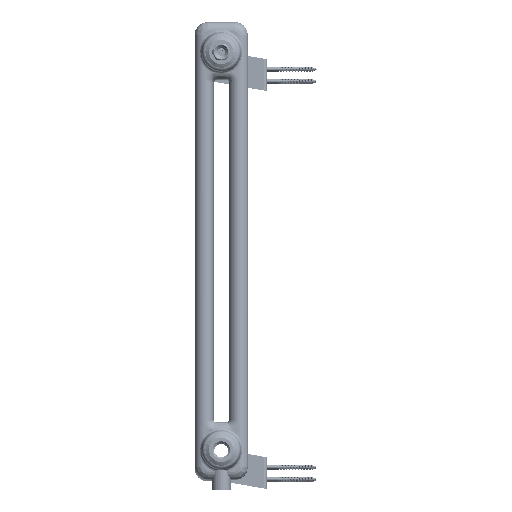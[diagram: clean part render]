
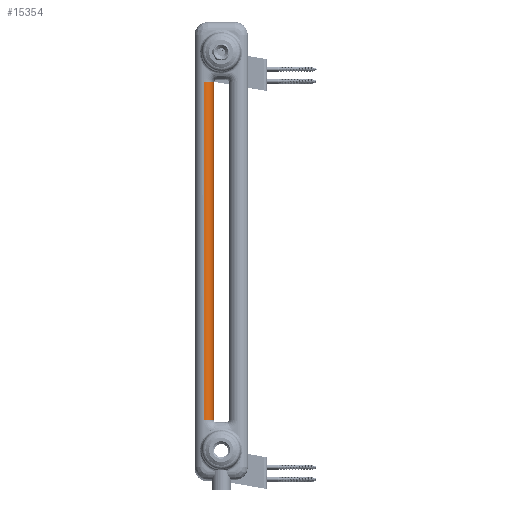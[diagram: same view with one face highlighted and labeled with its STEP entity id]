
A CAD part, top view. The second image highlights one B-rep face of the part: STEP entity #15354.
In plain terms, the highlighted cylindrical face has radius 12.5 mm (diameter 25 mm), a partial arc.
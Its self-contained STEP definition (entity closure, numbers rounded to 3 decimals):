
#7335=CIRCLE('',#102550,12.5);
#7341=CIRCLE('',#102557,12.5);
#7372=CIRCLE('',#102601,12.5);
#7373=CIRCLE('',#102602,12.5);
#15354=ADVANCED_FACE('',(#22884),#19764,.T.);
#19764=CYLINDRICAL_SURFACE('',#102603,12.5);
#22884=FACE_OUTER_BOUND('',#29271,.T.);
#29271=EDGE_LOOP('',(#51902,#51903,#51904,#51905,#51906,#51907));
#34760=LINE('',#237119,#38239);
#34761=LINE('',#237120,#38240);
#38239=VECTOR('',#118945,1.);
#38240=VECTOR('',#118946,1.);
#51902=ORIENTED_EDGE('',*,*,#85207,.F.);
#51903=ORIENTED_EDGE('',*,*,#85208,.F.);
#51904=ORIENTED_EDGE('',*,*,#85209,.F.);
#51905=ORIENTED_EDGE('',*,*,#85140,.T.);
#51906=ORIENTED_EDGE('',*,*,#85134,.T.);
#51907=ORIENTED_EDGE('',*,*,#85210,.F.);
#73908=VERTEX_POINT('',#235808);
#73909=VERTEX_POINT('',#235809);
#73912=VERTEX_POINT('',#235817);
#73957=VERTEX_POINT('',#237115);
#73958=VERTEX_POINT('',#237116);
#73959=VERTEX_POINT('',#237118);
#85134=EDGE_CURVE('',#73908,#73909,#7335,.T.);
#85140=EDGE_CURVE('',#73912,#73908,#7341,.T.);
#85207=EDGE_CURVE('',#73957,#73958,#7372,.T.);
#85208=EDGE_CURVE('',#73959,#73957,#7373,.T.);
#85209=EDGE_CURVE('',#73912,#73959,#34760,.T.);
#85210=EDGE_CURVE('',#73958,#73909,#34761,.T.);
#102550=AXIS2_PLACEMENT_3D('',#235807,#118822,#118823);
#102557=AXIS2_PLACEMENT_3D('',#235819,#118836,#118837);
#102601=AXIS2_PLACEMENT_3D('',#237114,#118941,#118942);
#102602=AXIS2_PLACEMENT_3D('',#237117,#118943,#118944);
#102603=AXIS2_PLACEMENT_3D('',#237121,#118947,#118948);
#118822=DIRECTION('',(0.,1.,0.));
#118823=DIRECTION('',(1.,0.,0.));
#118836=DIRECTION('',(0.,1.,0.));
#118837=DIRECTION('',(0.,0.,1.));
#118941=DIRECTION('',(0.,1.,0.));
#118942=DIRECTION('',(1.,0.,0.));
#118943=DIRECTION('',(0.,1.,0.));
#118944=DIRECTION('',(0.,0.,1.));
#118945=DIRECTION('',(0.,1.,0.));
#118946=DIRECTION('',(0.,-1.,0.));
#118947=DIRECTION('',(0.,-1.,0.));
#118948=DIRECTION('',(0.,0.,1.));
#235807=CARTESIAN_POINT('',(12.5,79.5,922.5));
#235808=CARTESIAN_POINT('',(25.,79.5,922.5));
#235809=CARTESIAN_POINT('',(12.5,79.5,910.));
#235817=CARTESIAN_POINT('',(12.5,79.5,935.));
#235819=CARTESIAN_POINT('',(12.5,79.5,922.5));
#237114=CARTESIAN_POINT('',(12.5,523.5,922.5));
#237115=CARTESIAN_POINT('',(25.,523.5,922.5));
#237116=CARTESIAN_POINT('',(12.5,523.5,910.));
#237117=CARTESIAN_POINT('',(12.5,523.5,922.5));
#237118=CARTESIAN_POINT('',(12.5,523.5,935.));
#237119=CARTESIAN_POINT('',(12.5,79.5,935.));
#237120=CARTESIAN_POINT('',(12.5,523.5,910.));
#237121=CARTESIAN_POINT('',(12.5,523.5,922.5));
